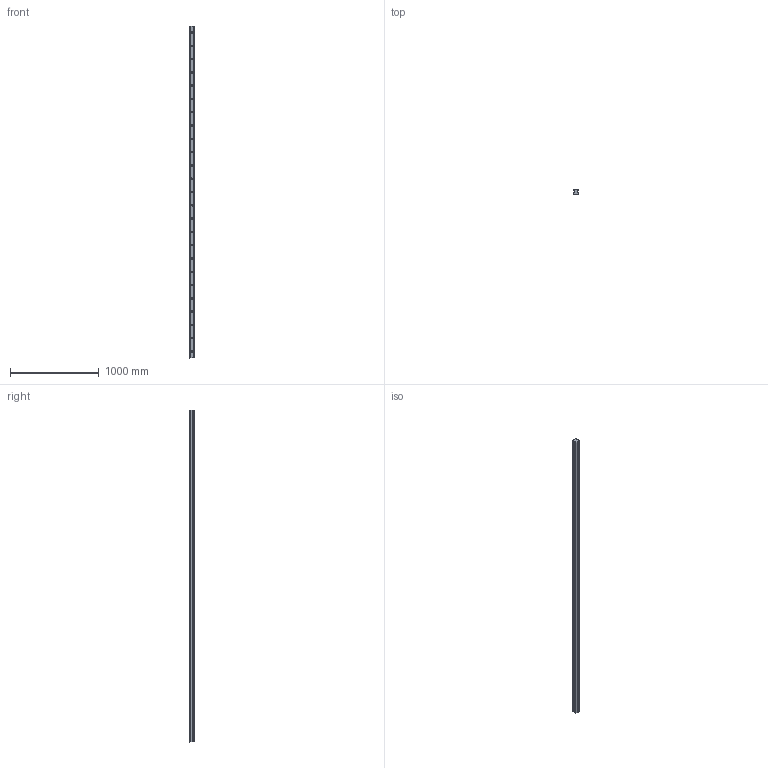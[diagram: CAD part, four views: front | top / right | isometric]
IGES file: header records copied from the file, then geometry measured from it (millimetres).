
Start section: 3D InterOp IGES (v. 2019 1.0.2), Spatial Corp. Copyright (c) 1999-2017.
Global section: file name: R1607_size65.igs; native system: Spatial Corp.; preprocessor: 3D InterOp GENERIC/IGES 3.0; author: Noname; organization: Noname; date: 20220629.163531; units: millimetre
Bounding box: 63 x 59.85 x 3746 mm (x, y, z)
Surface area: 1010988.5 mm2 (no closed solid volume)
Topology: 0 solids, 0 shells, 255 faces, 3364 edges, 3314 vertices
Faces by surface type: revolution 164, extrusion 91
